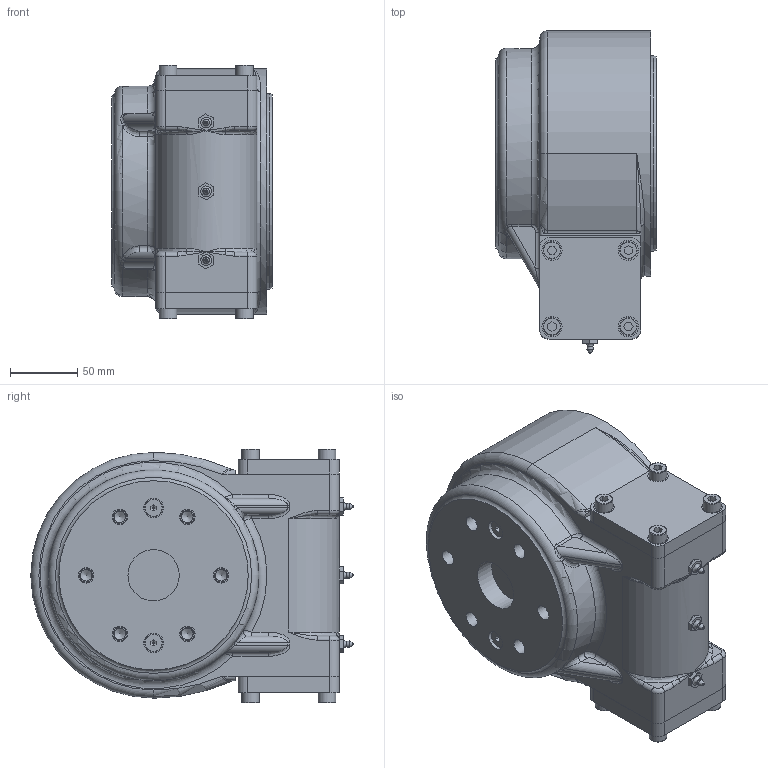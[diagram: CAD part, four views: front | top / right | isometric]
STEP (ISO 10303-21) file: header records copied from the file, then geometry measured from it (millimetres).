
FILE_DESCRIPTION (( 'STEP AP214' ), '1' );
FILE_NAME ('FGA5-62M-12S-R-REV.A.STEP', '2023-10-09T01:28:31', ( '' ), ( '' ), 'SwSTEP 2.0', 'SolidWorks 2018', '' );
FILE_SCHEMA (( 'AUTOMOTIVE_DESIGN' ));
Length unit declared in the file: millimetre
Products named in the file (1): FGA5-62M-12S-R-REV.A
Bounding box: 119 x 238.92 x 188 mm (x, y, z)
Volume: 2560544.5 mm3; surface area: 461151.4 mm2
Topology: 19 solids, 19 shells, 697 faces, 1504 edges, 929 vertices
Faces by surface type: plane 317, cylinder 216, cone 59, bspline 54, torus 48, sphere 3
Full cylindrical faces by diameter (mm): 4.58 x2, 6 x8, 6.8 x12, 7 x3, 7.42 x2, 8 x20, 8.5 x12, 9 x12, 10 x23, 11.5 x6, 13 x14, 14.5 x2, 15 x12, 16 x1, 25 x2, 32 x2, 38 x1, 46 x1, 52 x4, 58.3 x1, 65 x2, 65.3 x1, 80 x2, 85 x2, 98 x1, 110 x2, 120 x1, 130 x1, 136 x1, 145 x2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
Entity records: 28181 total; most frequent: CARTESIAN_POINT 6614, DIRECTION 2912, ORIENTED_EDGE 2318, AXIS2_PLACEMENT_3D 1215, EDGE_CURVE 1159, EDGE_LOOP 1102, FACE_OUTER_BOUND 887, VERTEX_POINT 851
